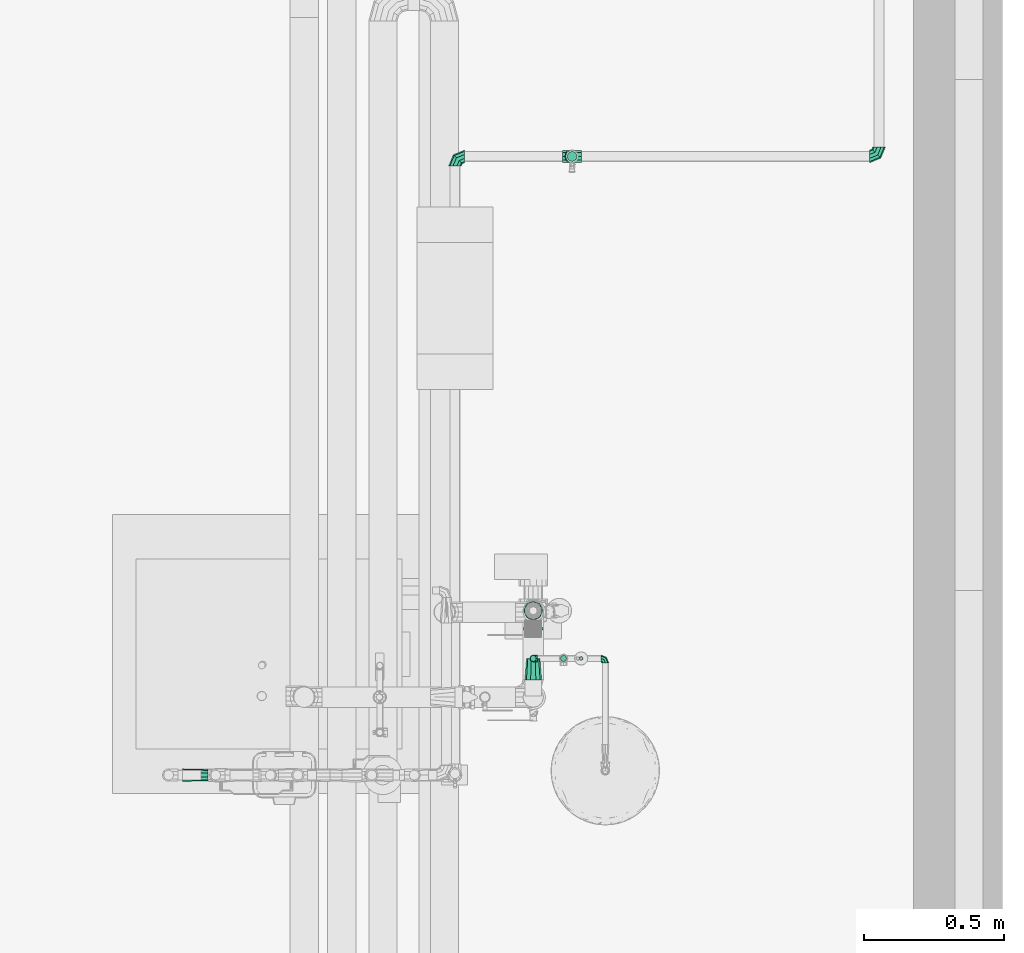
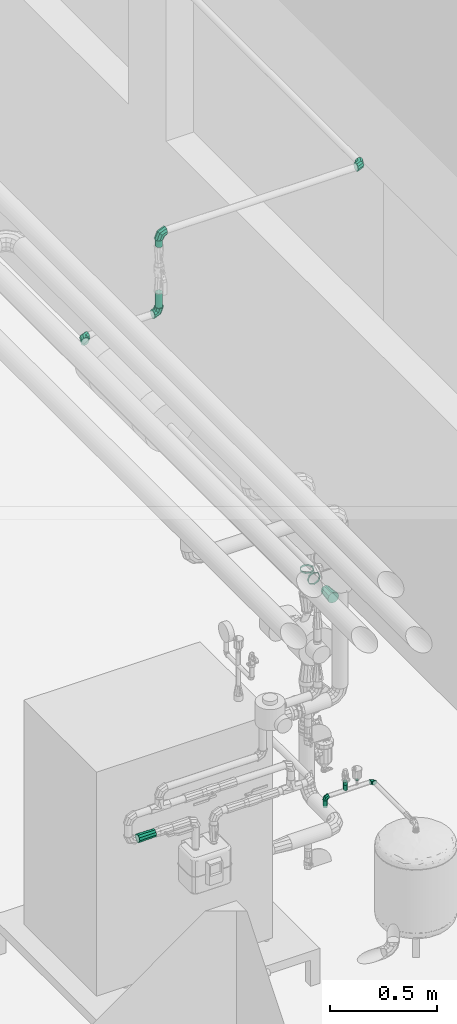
# One storey, part 29 of 43: 11 flow fittings, 5 flow segments.
"""IFC2X3 building model written with IfcOpenShell, lengths in millimetres."""

from ifc_helpers import new_model, entity, si_unit, converted_unit, derived_unit, direction, frame, frame_2d, origin, origin_2d_with_axis, place, context, subcontext, project, spatial, polyline, circle_curve, parameter, trimmed, segment, composite_curve, circle, outline, extrude, faceted_brep, source, transform, mapped, material, material_list, type_object, type_shapes, element, save


model = new_model("IFC2X3")

# Units and contexts
model_context = context("Model", 3, precision=0.01, world=origin(), true_north=direction((6.123031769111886e-17, 1.0)))
body_context = subcontext(model_context, "Body", "Model", "MODEL_VIEW")
ifc_project = project(units=[si_unit("LENGTHUNIT", "METRE", prefix="MILLI"), si_unit("AREAUNIT", "SQUARE_METRE"), si_unit("VOLUMEUNIT", "CUBIC_METRE"), converted_unit("PLANEANGLEUNIT", "DEGREE", entity("IfcRatioMeasure", 0.017453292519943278), si_unit("PLANEANGLEUNIT", "RADIAN"), dimensions=[0, 0, 0, 0, 0, 0, 0]), si_unit("MASSUNIT", "GRAM", prefix="KILO"), derived_unit("MASSDENSITYUNIT", [(si_unit("MASSUNIT", "GRAM", prefix="KILO"), 1), (si_unit("LENGTHUNIT", "METRE"), -3)]), derived_unit("MOMENTOFINERTIAUNIT", [(si_unit("LENGTHUNIT", "METRE"), 4)]), si_unit("TIMEUNIT", "SECOND"), si_unit("FREQUENCYUNIT", "HERTZ"), si_unit("THERMODYNAMICTEMPERATUREUNIT", "DEGREE_CELSIUS"), derived_unit("THERMALTRANSMITTANCEUNIT", [(si_unit("MASSUNIT", "GRAM", prefix="KILO"), 1), (si_unit("THERMODYNAMICTEMPERATUREUNIT", "KELVIN"), -1), (si_unit("TIMEUNIT", "SECOND"), -3)]), derived_unit("VOLUMETRICFLOWRATEUNIT", [(si_unit("LENGTHUNIT", "METRE"), 3), (si_unit("TIMEUNIT", "SECOND"), -1)]), derived_unit("MASSFLOWRATEUNIT", [(si_unit("MASSUNIT", "GRAM", prefix="KILO"), 1), (si_unit("TIMEUNIT", "SECOND"), -1)]), derived_unit("ROTATIONALFREQUENCYUNIT", [(si_unit("TIMEUNIT", "SECOND"), -1)]), si_unit("ELECTRICCURRENTUNIT", "AMPERE"), si_unit("ELECTRICVOLTAGEUNIT", "VOLT"), si_unit("POWERUNIT", "WATT"), si_unit("FORCEUNIT", "NEWTON", prefix="KILO"), si_unit("ILLUMINANCEUNIT", "LUX"), si_unit("LUMINOUSFLUXUNIT", "LUMEN"), si_unit("LUMINOUSINTENSITYUNIT", "CANDELA"), derived_unit("USERDEFINED", [(si_unit("MASSUNIT", "GRAM", prefix="KILO"), -1), (si_unit("LENGTHUNIT", "METRE"), -2), (si_unit("TIMEUNIT", "SECOND"), 3), (si_unit("LUMINOUSFLUXUNIT", "LUMEN"), 1)]), derived_unit("SOUNDPOWERUNIT", [(si_unit("MASSUNIT", "GRAM", prefix="KILO"), 1), (si_unit("LENGTHUNIT", "METRE"), 2), (si_unit("TIMEUNIT", "SECOND"), -3)]), derived_unit("SOUNDPRESSUREUNIT", [(si_unit("MASSUNIT", "GRAM", prefix="KILO"), 1), (si_unit("LENGTHUNIT", "METRE"), -1), (si_unit("TIMEUNIT", "SECOND"), -2)]), derived_unit("LINEARVELOCITYUNIT", [(si_unit("LENGTHUNIT", "METRE"), 1), (si_unit("TIMEUNIT", "SECOND"), -1)]), si_unit("PRESSUREUNIT", "PASCAL"), derived_unit("USERDEFINED", [(si_unit("LENGTHUNIT", "METRE"), -2), (si_unit("MASSUNIT", "GRAM", prefix="KILO"), 1), (si_unit("TIMEUNIT", "SECOND"), -2)]), derived_unit("LINEARFORCEUNIT", [(si_unit("MASSUNIT", "GRAM", prefix="KILO"), 1), (si_unit("LENGTHUNIT", "METRE"), 1), (si_unit("TIMEUNIT", "SECOND"), -2), (si_unit("LENGTHUNIT", "METRE"), -1)]), derived_unit("PLANARFORCEUNIT", [(si_unit("MASSUNIT", "GRAM", prefix="KILO"), 1), (si_unit("LENGTHUNIT", "METRE"), 1), (si_unit("TIMEUNIT", "SECOND"), -2), (si_unit("LENGTHUNIT", "METRE"), -2)])], contexts=[model_context])

# Site, building, storey
site_placement = place(None, origin())
site = spatial("IfcSite", under=ifc_project, at=site_placement, Name="Default", CompositionType="ELEMENT")
building_placement = place(site_placement, origin())
building = spatial("IfcBuilding", under=site, at=building_placement, CompositionType="ELEMENT")
storey_placement = place(building_placement, frame((0.0, 0.0, 270.0)))
storey = spatial("IfcBuildingStorey", under=building, at=storey_placement, Name="Niveau 0", CompositionType="ELEMENT", Elevation=270.0)

# Flow segments
pipe_segment_type_1 = type_object("IfcPipeSegmentType", Name="Canalisation:tube acier", PredefinedType="NOTDEFINED")
flow_segment_1_placement = place(storey_placement, origin())
element("IfcFlowSegment", 1, at=flow_segment_1_placement, inside=storey, type_object=pipe_segment_type_1, Name="Canalisation:tube acier", ObjectType="Canalisation:tube acier", context=body_context, shape_type="SweptSolid", body=[
    extrude(circle(Radius=10.668, at=origin_2d_with_axis()), frame((-1682.0, -9476.09017159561, 607.2424506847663), z_axis=(0.0, 0.0, 1.0), x_axis=(-1.0, 0.0, 0.0)), (0.0, 0.0, 1.0), 40.784100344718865),
])
flow_segment_2_placement = place(storey_placement, origin())
element("IfcFlowSegment", 2, at=flow_segment_2_placement, inside=storey, type_object=pipe_segment_type_1, Name="Canalisation:tube acier", ObjectType="Canalisation:tube acier", context=body_context, shape_type="SweptSolid", body=[
    extrude(circle(Radius=6.75, at=origin_2d_with_axis()), frame((-1510.235486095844, -9476.090171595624, 699.6035354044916), z_axis=(0.0, 0.0, 1.0), x_axis=(-1.0, 0.0, 0.0)), (0.0, 0.0, 1.0), 6.089535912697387),
])
flow_segment_3_placement = place(storey_placement, origin())
element("IfcFlowSegment", 3, at=flow_segment_3_placement, inside=storey, type_object=pipe_segment_type_1, Name="Canalisation:tube acier", ObjectType="Canalisation:tube acier", context=body_context, shape_type="SweptSolid", body=[
    extrude(circle(Radius=10.65, at=origin_2d_with_axis()), frame((-1573.4695497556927, -9476.090171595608, 699.6035354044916), z_axis=(0.0, 0.0, 1.0), x_axis=(-1.0, 0.0, 0.0)), (0.0, 0.0, 1.0), 17.316102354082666),
])

# Flow fittings
ifc_material_1 = material(Name="<Unnamed>")
ifc_material_list_1 = material_list([ifc_material_1, ifc_material_1])
pipe_fitting_type_1 = type_object("IfcPipeFittingType", Name="Coude - Générique:Standard", PredefinedType="NOTDEFINED", material=ifc_material_list_1)
shared_shape_1 = source(origin(), body_context, "Body", "Brep", [
    faceted_brep([(4.326975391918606, -4.326975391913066, 0.0), (1.6948585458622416, -1.6948585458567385, -8.986609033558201), (8.986609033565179, 15.908984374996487, -8.986609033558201), (12.70898437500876, 15.908984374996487, 0.0), (-4.659633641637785, 4.659633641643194, -12.708984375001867), (0.0, 15.908984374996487, -12.708984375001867), (-11.014125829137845, 11.014125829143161, -8.986609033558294), (-8.986609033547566, 15.908984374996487, -8.986609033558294), (-13.646242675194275, 13.646242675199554, 0.0), (-12.708984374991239, 15.908984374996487, 0.0), (-11.014125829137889, 11.014125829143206, 8.986609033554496), (-8.986609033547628, 15.908984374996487, 8.986609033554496), (-4.6596336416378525, 4.6596336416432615, 12.708984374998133), (0.0, 15.908984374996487, 12.708984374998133), (1.6948585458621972, -1.6948585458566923, 8.986609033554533), (8.986609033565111, 15.908984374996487, 8.986609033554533), (-15.908984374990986, -12.708984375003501, 0.0), (-15.908984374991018, -8.98660903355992, -8.986609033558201), (-15.9089843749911, 0.0, -12.708984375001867), (-15.908984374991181, 8.986609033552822, -8.986609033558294), (-15.908984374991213, 12.708984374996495, 0.0), (-15.908984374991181, 8.986609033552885, 8.986609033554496), (-15.9089843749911, 0.0, 12.708984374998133), (-15.908984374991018, -8.986609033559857, 8.986609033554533)], [[[0, 1, 2, 3]], [[1, 4, 5, 2]], [[4, 6, 7, 5]], [[6, 8, 9, 7]], [[8, 10, 11, 9]], [[10, 12, 13, 11]], [[12, 14, 15, 13]], [[14, 0, 3, 15]], [[16, 17, 1, 0]], [[17, 18, 4, 1]], [[18, 19, 6, 4]], [[19, 20, 8, 6]], [[20, 21, 10, 8]], [[21, 22, 12, 10]], [[22, 23, 14, 12]], [[23, 16, 0, 14]], [[3, 2, 5, 7, 9, 11, 13, 15]], [[23, 22, 21, 20, 19, 18, 17, 16]]]),
])
type_shapes(pipe_fitting_type_1, [shared_shape_1])
for number, where, z_axis, x_axis in (
    (4, (-1682.0, -9476.09017159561, 663.9355354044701), (0.0, 1.0, 0.0), (0.0, 0.0, 1.0)),
    (5, (-1423.8770997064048, -9476.090171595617, 663.9355354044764), (0.0, 0.0, 1.0), (0.0, 1.0, 0.0)),
):
    element("IfcFlowFitting", number, at=place(storey_placement, frame(where, z_axis=z_axis, x_axis=x_axis)), inside=storey, type_object=pipe_fitting_type_1, material=ifc_material_1, Name="Coude - Générique:Standard", ObjectType="Coude - Générique:Standard", context=body_context, shape_type="MappedRepresentation", body=[
        mapped(shared_shape_1, transform((0.0, 0.0, 0.0), scale=1.0)),
    ])
pipe_fitting_type_2 = type_object("IfcPipeFittingType", Name="Piquage Acier Noir droit:Longueur = 25", PredefinedType="NOTDEFINED", material=ifc_material_1)
shared_shape_2 = source(origin(), body_context, "Body", "Brep", [
    faceted_brep([(-6.095999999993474, 5.324999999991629, -9.223170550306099), (-6.095999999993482, 2.756422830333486, -10.287110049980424), (-6.0959999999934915, 0.0, -10.650000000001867), (-6.095999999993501, -2.7564228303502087, -10.287110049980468), (-6.095999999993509, -5.325000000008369, -9.223170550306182), (-6.095999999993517, -7.530687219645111, -7.530687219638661), (-6.0959999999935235, -9.223170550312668, -5.325000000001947), (-6.095999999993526, -10.287110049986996, -2.7564228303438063), (-6.095999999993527, -10.650000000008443, 0.0), (-6.095999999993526, -10.287110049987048, 2.7564228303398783), (-6.0959999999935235, -9.22317055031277, 5.3249999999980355), (-6.095999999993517, -7.530687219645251, 7.530687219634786), (-6.095999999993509, -5.3250000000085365, 9.22317055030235), (-6.095999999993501, -2.7564228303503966, 10.287110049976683), (-6.0959999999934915, 0.0, 10.649999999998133), (-6.095999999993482, 2.7564228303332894, 10.287110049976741), (-6.095999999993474, 5.324999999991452, 9.223170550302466), (-6.095999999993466, 7.530687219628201, 7.530687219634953), (-6.0959999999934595, 9.223170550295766, 5.324999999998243), (-6.095999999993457, 10.2871100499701, 2.7564228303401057), (-6.095999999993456, 10.649999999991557, 0.0), (-6.095999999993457, 10.287110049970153, -2.756422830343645), (-6.0959999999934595, 9.223170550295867, -5.325000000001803), (-6.095999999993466, 7.530687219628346, -7.530687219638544), (0.0, -10.28711004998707, 2.7564228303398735), (0.0, -10.650000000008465, 0.0), (25.0, -10.650000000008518, 0.0), (25.0, -10.287110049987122, 2.7564228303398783), (0.0, -9.22317055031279, 5.3249999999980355), (25.0, -9.223170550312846, 5.3249999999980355), (0.0, -7.530687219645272, 7.530687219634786), (25.0, -7.530687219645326, 7.530687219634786), (25.0, -5.325000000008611, 9.22317055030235), (0.0, -5.325000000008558, 9.22317055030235), (25.0, -2.756422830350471, 10.287110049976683), (0.0, -2.756422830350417, 10.287110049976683), (25.0, 0.0, 10.649999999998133), (0.0, 0.0, 10.649999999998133), (0.0, 5.324999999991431, 9.223170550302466), (0.0, 2.756422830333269, 10.287110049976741), (25.0, 2.756422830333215, 10.287110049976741), (25.0, 5.324999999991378, 9.223170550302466), (0.0, 7.53068721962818, 7.530687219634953), (25.0, 7.530687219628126, 7.530687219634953), (0.0, 9.223170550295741, 5.324999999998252), (25.0, 9.223170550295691, 5.324999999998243), (25.0, 10.287110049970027, 2.7564228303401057), (0.0, 10.287110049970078, 2.7564228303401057), (25.0, 10.649999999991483, 0.0), (0.0, 10.649999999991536, 0.0), (0.0, 10.287110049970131, -2.756422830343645), (25.0, 10.287110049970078, -2.756422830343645), (0.0, 9.223170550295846, -5.325000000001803), (25.0, 9.223170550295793, -5.325000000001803), (0.0, 7.530687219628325, -7.530687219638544), (25.0, 7.530687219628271, -7.530687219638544), (25.0, 5.3249999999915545, -9.223170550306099), (0.0, 5.3249999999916, -9.223170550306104), (25.0, 2.7564228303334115, -10.287110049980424), (0.0, 2.756422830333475, -10.287110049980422), (25.0, 0.0, -10.650000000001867), (0.0, 0.0, -10.650000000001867), (0.0, -5.325000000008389, -9.223170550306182), (0.0, -2.7564228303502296, -10.287110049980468), (25.0, -2.7564228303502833, -10.287110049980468), (25.0, -5.325000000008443, -9.223170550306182), (0.0, -7.530687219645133, -7.530687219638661), (25.0, -7.530687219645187, -7.530687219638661), (0.0, -9.22317055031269, -5.325000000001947), (25.0, -9.223170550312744, -5.325000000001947), (25.0, -10.28711004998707, -2.7564228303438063), (0.0, -10.287110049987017, -2.7564228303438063)], [[[0, 1, 2, 3, 4, 5, 6, 7, 8, 9, 10, 11, 12, 13, 14, 15, 16, 17, 18, 19, 20, 21, 22, 23]], [[24, 9, 8, 25, 26, 27]], [[28, 10, 9, 24, 27, 29]], [[11, 30, 31, 32, 33, 12]], [[28, 29, 31, 30, 11, 10]], [[12, 33, 32, 34, 35, 13]], [[13, 35, 34, 36, 37, 14]], [[38, 16, 15, 39, 40, 41]], [[42, 17, 16, 38, 41, 43]], [[18, 44, 45, 46, 47, 19]], [[42, 43, 45, 44, 18, 17]], [[19, 47, 46, 48, 49, 20]], [[15, 14, 37, 36, 40, 39]], [[50, 21, 20, 49, 48, 51]], [[52, 22, 21, 50, 51, 53]], [[23, 54, 55, 56, 57, 0]], [[52, 53, 55, 54, 23, 22]], [[0, 57, 56, 58, 59, 1]], [[1, 59, 58, 60, 61, 2]], [[62, 4, 3, 63, 64, 65]], [[66, 5, 4, 62, 65, 67]], [[6, 68, 69, 70, 71, 7]], [[66, 67, 69, 68, 6, 5]], [[7, 71, 70, 26, 25, 8]], [[3, 2, 61, 60, 64, 63]], [[60, 58, 56, 55, 53, 51, 48, 46, 45, 43, 41, 40, 36, 34, 32, 31, 29, 27, 26, 70, 69, 67, 65, 64]]]),
])
type_shapes(pipe_fitting_type_2, [shared_shape_2])
flow_fitting_1_placement = place(storey_placement, frame((-1573.4695497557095, -9476.09017159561, 674.6035354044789), z_axis=(0.0, -1.0, 0.0), x_axis=(0.0, 0.0, 1.0)))
element("IfcFlowFitting", 6, at=flow_fitting_1_placement, inside=storey, type_object=pipe_fitting_type_2, material=ifc_material_1, Name="Piquage Acier Noir droit:Longueur = 25", ObjectType="Piquage Acier Noir droit:Longueur = 25", context=body_context, shape_type="MappedRepresentation", body=[
    mapped(shared_shape_2, transform((0.0, 0.0, 0.0), scale=1.0)),
])
ifc_material_2 = material(Name="Copper Conex")
pipe_fitting_type_3 = type_object("IfcPipeFittingType", Name="Conex-Series 8000_8280:8280 016000000", PredefinedType="NOTDEFINED", material=ifc_material_2)
shared_shape_3 = source(origin(), body_context, "Body", "SweptSolid", [
    extrude(outline(polyline([(-13.254833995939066, -32.0), (13.254833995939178, -32.0), (32.0, -13.254833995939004), (32.0, 13.254833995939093), (13.25483399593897, 32.0), (-13.254833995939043, 32.0), (-32.0, 13.254833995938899), (-32.0, -13.254833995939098), (-13.254833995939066, -32.0)]), holes=[composite_curve([segment(trimmed(circle_curve(frame_2d((0.0, 0.0), x_axis=(-0.38268343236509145, 0.9238795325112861)), 29.807), [parameter(3.053332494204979e-13)], [parameter(180.0)], True, "PARAMETER"), False, "CONTINUOUS"), segment(trimmed(circle_curve(frame_2d((0.0, 0.0), x_axis=(-0.38268343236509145, 0.9238795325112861)), 29.807), [parameter(179.99999999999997)], [parameter(0.0)], True, "PARAMETER"), False, "CONTINUOUS")], self_intersect=False)]), frame((-4.5000000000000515, 0.0, 0.0), z_axis=(1.0, 0.0, 0.0), x_axis=(0.0, -0.38268343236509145, -0.9238795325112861)), (0.0, 0.0, 1.0), 9.000000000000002),
])
type_shapes(pipe_fitting_type_3, [shared_shape_3])
for number, where, z_axis, x_axis in (
    (7, (-1682.0, -9305.0, 1863.3982340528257), (0.0, 1.0, 0.0), (0.0, 0.0, 1.0)),
    (8, (-1682.0, -9370.0, 1849.8262850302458), (0.0, 0.0, 1.0), (0.0, 1.0, 0.0)),
):
    element("IfcFlowFitting", number, at=place(storey_placement, frame(where, z_axis=z_axis, x_axis=x_axis)), inside=storey, type_object=pipe_fitting_type_3, material=ifc_material_2, Name="Conex-Series 8000_8280:8280 016000000", ObjectType="Conex-Series 8000_8280:8280 016000000", context=body_context, shape_type="MappedRepresentation", body=[
        mapped(shared_shape_3, transform((0.0, 0.0, 0.0), scale=1.0)),
    ])
pipe_fitting_type_4 = type_object("IfcPipeFittingType", Name="Transformation - Générique:Standard", PredefinedType="NOTDEFINED", material=ifc_material_1)
shared_shape_4 = source(origin(), body_context, "Body", "Brep", [
    faceted_brep([(76.0, -30.150000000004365, 0.0), (76.0, -28.241425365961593, -5.873988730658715), (76.0, -26.33285073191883, -11.747977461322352), (76.0, -24.391862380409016, -17.721725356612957), (76.0, -16.854362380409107, -23.198039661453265), (76.0, -9.3168623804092, -28.67435396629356), (76.0, 0.0, -28.674353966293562), (76.0, 9.316862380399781, -28.674353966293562), (76.0, 16.854362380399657, -23.198039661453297), (76.0, 24.39186238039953, -17.721725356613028), (76.0, 26.332850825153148, -11.747977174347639), (76.0, 28.241425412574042, -5.8739885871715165), (76.0, 30.14999999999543, 0.0), (76.0, 28.24142536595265, 5.873988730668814), (76.0, 26.33285073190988, 11.747977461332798), (76.0, 24.391862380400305, 17.72172535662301), (76.0, 16.85436238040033, 23.19803966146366), (76.0, 9.316862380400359, 28.674353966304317), (76.0, 0.0, 28.67435396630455), (76.0, -9.3168623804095, 28.674353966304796), (76.0, -16.854362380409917, 23.198039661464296), (76.0, -24.391862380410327, 17.7217253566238), (76.0, -26.33285082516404, 11.747977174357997), (76.0, -28.24142541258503, 5.873988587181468), (0.0, -19.537760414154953, -14.195013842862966), (0.0, -21.843880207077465, -7.097506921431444), (0.0, -24.150000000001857, 0.0), (0.0, -21.843880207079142, 7.097506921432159), (0.0, -19.537760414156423, 14.19501384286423), (0.0, -13.500260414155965, 18.58151435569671), (0.0, -7.462760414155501, 22.968014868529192), (0.0, 0.0, 22.96801486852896), (0.0, 7.462760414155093, 22.968014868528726), (0.0, 13.50026041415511, 18.581514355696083), (0.0, 19.537760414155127, 14.195013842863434), (0.0, 21.843880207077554, 7.097506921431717), (0.0, 24.14999999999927, 0.0), (0.0, 21.84388020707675, -7.097506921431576), (0.0, 19.53776041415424, -14.195013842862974), (0.0, 13.500260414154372, -18.581514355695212), (0.0, 7.462760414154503, -22.968014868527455), (0.0, 0.0, -22.968014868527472), (0.0, -7.462760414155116, -22.968014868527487), (0.0, -13.500260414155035, -18.581514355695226)], [[[0, 1, 2, 3, 4, 5, 6, 7, 8, 9, 10, 11, 12, 13, 14, 15, 16, 17, 18, 19, 20, 21, 22, 23]], [[24, 25, 26, 27, 28, 29, 30, 31, 32, 33, 34, 35, 36, 37, 38, 39, 40, 41, 42, 43]], [[24, 3, 2, 1, 0, 26, 25]], [[7, 40, 39, 38, 9, 8]], [[42, 5, 4, 3, 24, 43]], [[6, 5, 42, 41, 40, 7]], [[11, 10, 9, 38, 37, 36, 12]], [[34, 15, 14, 13, 12, 36, 35]], [[19, 30, 29, 28, 21, 20]], [[32, 17, 16, 15, 34, 33]], [[18, 17, 32, 31, 30, 19]], [[23, 22, 21, 28, 27, 26, 0]]]),
])
type_shapes(pipe_fitting_type_4, [shared_shape_4])
flow_fitting_2_placement = place(storey_placement, frame((-1682.0, -9477.0, 1849.8262850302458), z_axis=(0.0, 0.0, 1.0), x_axis=(0.0, -1.0, 0.0)))
element("IfcFlowFitting", 9, at=flow_fitting_2_placement, inside=storey, type_object=pipe_fitting_type_4, material=ifc_material_1, Name="Transformation - Générique:Standard", ObjectType="Transformation - Générique:Standard", context=body_context, shape_type="MappedRepresentation", body=[
    mapped(shared_shape_4, transform((0.0, 0.0, 0.0), scale=1.0)),
])

# Flow segments
pipe_segment_type_2 = type_object("IfcPipeSegmentType", Name="Canalisation:tuyau cuivre", PredefinedType="NOTDEFINED")
flow_segment_4_placement = place(storey_placement, origin())
element("IfcFlowSegment", 10, at=flow_segment_4_placement, inside=storey, type_object=pipe_segment_type_2, Name="Canalisation:tuyau cuivre", ObjectType="Canalisation:tuyau cuivre", context=body_context, shape_type="SweptSolid", body=[
    extrude(circle(Radius=17.5, at=origin_2d_with_axis()), frame((-1542.483085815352, -7677.176554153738, 2329.9543106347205)), (0.0, 0.0, 1.0), 81.96585214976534),
])
flow_segment_5_placement = place(storey_placement, origin())
element("IfcFlowSegment", 11, at=flow_segment_5_placement, inside=storey, type_object=pipe_segment_type_2, Name="Canalisation:tuyau cuivre", ObjectType="Canalisation:tuyau cuivre", context=body_context, shape_type="SweptSolid", body=[
    extrude(circle(Radius=17.5, at=origin_2d_with_axis()), frame((-1542.4830858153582, -7677.176554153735, 2676.8107877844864)), (0.0, 0.0, 1.0), 40.96585214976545),
])

# Flow fittings
ifc_material_list_2 = material_list([ifc_material_1, ifc_material_1])
ifc_material_list_3 = material_list([ifc_material_1, ifc_material_1])
pipe_fitting_type_5 = type_object("IfcPipeFittingType", Name="Coude - Générique:Standard", PredefinedType="NOTDEFINED", material=ifc_material_list_3)
shared_shape_5 = source(origin(), body_context, "Body", "Brep", [
    faceted_brep([(6.037296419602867, -6.0372964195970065, 0.0), (2.9705530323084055, -2.970553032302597, -13.348006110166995), (18.371954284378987, 34.21171874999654, -13.348006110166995), (22.70898437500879, 34.21171874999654, 0.0), (-5.0582853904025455, 5.0582853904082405, -21.597527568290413), (7.017462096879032, 34.21171874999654, -21.597527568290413), (-14.982475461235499, 14.982475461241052, -21.597527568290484), (-7.017462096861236, 34.21171874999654, -21.597527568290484), (-23.011313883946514, 23.011313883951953, -13.348006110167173), (-18.37195428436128, 34.21171874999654, -13.348006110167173), (-26.078057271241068, 26.078057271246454, 0.0), (-22.708984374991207, 34.21171874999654, 0.0), (-23.011313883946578, 23.011313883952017, 13.348006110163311), (-18.371954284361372, 34.21171874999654, 13.348006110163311), (-14.98247546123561, 14.982475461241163, 21.59752756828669), (-7.0174620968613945, 34.21171874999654, 21.59752756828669), (-5.058285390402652, 5.058285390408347, 21.59752756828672), (7.017462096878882, 34.21171874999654, 21.59752756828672), (2.9705530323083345, -2.9705530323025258, 13.348006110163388), (18.371954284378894, 34.21171874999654, 13.348006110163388), (-34.21171874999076, -22.708984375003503, 0.0), (-34.21171874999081, -18.371954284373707, -13.348006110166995), (-34.2117187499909, -7.01746209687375, -21.597527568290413), (-34.21171874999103, 7.0174620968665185, -21.597527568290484), (-34.21171874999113, 18.371954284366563, -13.348006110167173), (-34.21171874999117, 22.70898437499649, 0.0), (-34.21171874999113, 18.371954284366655, 13.348006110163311), (-34.21171874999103, 7.0174620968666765, 21.59752756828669), (-34.2117187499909, -7.017462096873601, 21.59752756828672), (-34.21171874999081, -18.371954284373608, 13.348006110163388)], [[[0, 1, 2, 3]], [[1, 4, 5, 2]], [[4, 6, 7, 5]], [[6, 8, 9, 7]], [[8, 10, 11, 9]], [[10, 12, 13, 11]], [[12, 14, 15, 13]], [[14, 16, 17, 15]], [[16, 18, 19, 17]], [[18, 0, 3, 19]], [[20, 21, 1, 0]], [[21, 22, 4, 1]], [[22, 23, 6, 4]], [[23, 24, 8, 6]], [[24, 25, 10, 8]], [[25, 26, 12, 10]], [[26, 27, 14, 12]], [[27, 28, 16, 14]], [[28, 29, 18, 16]], [[29, 20, 0, 18]], [[3, 2, 5, 7, 9, 11, 13, 15, 17, 19]], [[29, 28, 27, 26, 25, 24, 23, 22, 21, 20]]]),
])
type_shapes(pipe_fitting_type_5, [shared_shape_5])
flow_fitting_3_placement = place(storey_placement, frame((-1962.483085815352, -7677.1765541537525, 2295.7425918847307), z_axis=(0.0, 0.0, 1.0), x_axis=(-1.0, 0.0, 0.0)))
element("IfcFlowFitting", 12, at=flow_fitting_3_placement, inside=storey, type_object=pipe_fitting_type_5, material=ifc_material_list_2, Name="Coude - Générique:Standard", ObjectType="Coude - Générique:Standard", context=body_context, shape_type="MappedRepresentation", body=[
    mapped(shared_shape_5, transform((0.0, 0.0, 0.0), scale=1.0)),
])
flow_fitting_4_placement = place(storey_placement, frame((-442.48308581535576, -7677.1765541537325, 2751.988358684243)))
element("IfcFlowFitting", 13, at=flow_fitting_4_placement, inside=storey, type_object=pipe_fitting_type_5, material=ifc_material_1, Name="Coude - Générique:Standard", ObjectType="Coude - Générique:Standard", context=body_context, shape_type="MappedRepresentation", body=[
    mapped(shared_shape_5, transform((0.0, 0.0, 0.0), scale=1.0)),
])
for number, where, z_axis, x_axis in (
    (14, (-1542.4830858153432, -7677.176554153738, 2751.9883586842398), (0.0, -1.0, 0.0), (-1.0, 0.0, 0.0)),
    (15, (-1542.4830858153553, -7677.17655415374, 2295.7425918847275), (0.0, 1.0, 0.0), (0.0, 0.0, -1.0)),
):
    element("IfcFlowFitting", number, at=place(storey_placement, frame(where, z_axis=z_axis, x_axis=x_axis)), inside=storey, type_object=pipe_fitting_type_5, material=ifc_material_1, Name="Coude - Générique:Standard", ObjectType="Coude - Générique:Standard", context=body_context, shape_type="MappedRepresentation", body=[
        mapped(shared_shape_5, transform((0.0, 0.0, 0.0), scale=1.0)),
    ])
pipe_fitting_type_6 = type_object("IfcPipeFittingType", Name="Transformation - Générique:Standard", PredefinedType="NOTDEFINED", material=ifc_material_1)
shared_shape_6 = source(origin(), body_context, "Body", "Brep", [
    faceted_brep([(91.44531250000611, 18.371954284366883, -13.348006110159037), (91.44531250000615, 20.556774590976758, -6.623820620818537), (91.44531250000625, 22.70898437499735, 0.0), (91.44531250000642, 20.55677458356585, 6.623820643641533), (91.44531250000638, 18.371954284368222, 13.348006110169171), (91.44531250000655, 12.694708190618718, 17.47276683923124), (91.44531250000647, 7.017462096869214, 21.59752756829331), (91.44531250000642, 0.0, 21.597527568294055), (91.44531250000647, -7.017462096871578, 21.597527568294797), (91.44531250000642, -12.694708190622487, 17.47276683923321), (91.44531250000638, -18.371954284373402, 13.348006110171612), (91.44531250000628, -20.556774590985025, 6.623820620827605), (91.44531250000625, -22.708984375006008, 0.0), (91.44531250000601, -20.55677458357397, -6.623820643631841), (91.44531250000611, -18.371954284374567, -13.348006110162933), (91.44531250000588, -12.694708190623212, -17.472766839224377), (91.44531250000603, -7.017462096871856, -21.597527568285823), (91.44531250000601, 0.0, -21.597527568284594), (91.44531250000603, 7.0174620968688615, -21.59752756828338), (91.44531250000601, 12.694708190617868, -17.47276683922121), (0.0, 21.08398437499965, 0.0), (0.0, 19.07064302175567, -6.196427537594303), (0.0, 17.057301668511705, -12.392855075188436), (0.0, 11.78630557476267, -16.22245790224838), (0.0, 6.515309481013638, -20.05206072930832), (0.0, 0.0, -20.052060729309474), (0.0, -6.51530948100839, -20.052060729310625), (0.0, -11.786305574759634, -16.22245790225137), (0.0, -17.05730166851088, -12.392855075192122), (0.0, -19.07064302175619, -6.196427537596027), (0.0, -21.083984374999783, 0.0), (0.0, -19.07064302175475, 6.196427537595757), (0.0, -17.05730166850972, 12.392855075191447), (0.0, -11.78630557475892, 16.222457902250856), (0.0, -6.5153094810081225, 20.052060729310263), (0.0, 0.0, 20.05206072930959), (0.0, 6.515309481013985, 20.052060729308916), (0.0, 11.786305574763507, 16.222457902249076), (0.0, 17.05730166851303, 12.392855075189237), (0.0, 19.070643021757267, 6.1964275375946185)], [[[0, 1, 2, 3, 4, 5, 6, 7, 8, 9, 10, 11, 12, 13, 14, 15, 16, 17, 18, 19]], [[20, 21, 22, 23, 24, 25, 26, 27, 28, 29, 30, 31, 32, 33, 34, 35, 36, 37, 38, 39]], [[14, 13, 12, 30, 29, 28]], [[0, 22, 21, 20, 2, 1]], [[26, 16, 15, 14, 28, 27]], [[17, 16, 26, 25, 24, 18]], [[22, 0, 19, 18, 24, 23]], [[4, 3, 2, 20, 39, 38]], [[10, 32, 31, 30, 12, 11]], [[36, 6, 5, 4, 38, 37]], [[7, 6, 36, 35, 34, 8]], [[32, 10, 9, 8, 34, 33]]]),
])
type_shapes(pipe_fitting_type_6, [shared_shape_6])
flow_fitting_5_placement = place(storey_placement, frame((-2847.0990191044, -9894.089173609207, 1120.500000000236), z_axis=(0.0, 0.0, 1.0), x_axis=(-1.0, 0.0, 0.0)))
element("IfcFlowFitting", 16, at=flow_fitting_5_placement, inside=storey, type_object=pipe_fitting_type_6, material=ifc_material_1, Name="Transformation - Générique:Standard", ObjectType="Transformation - Générique:Standard", context=body_context, shape_type="MappedRepresentation", body=[
    mapped(shared_shape_6, transform((0.0, 0.0, 0.0), scale=1.0)),
])

save(model, "model.ifc")
